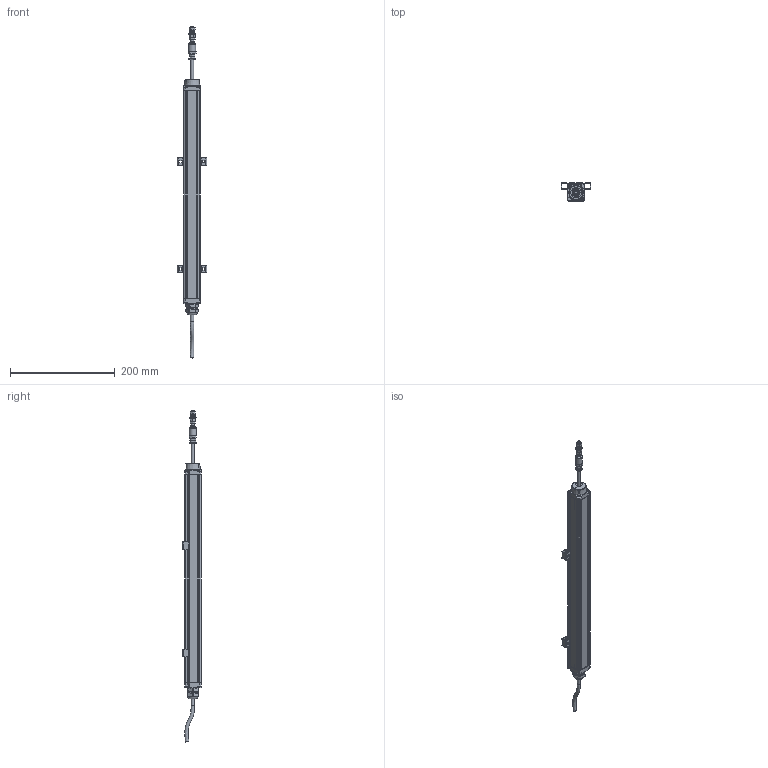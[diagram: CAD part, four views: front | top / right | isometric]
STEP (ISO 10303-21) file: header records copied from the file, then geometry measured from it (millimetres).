
FILE_DESCRIPTION(/* description */ (''),/* implementation_level */ '2;1');
FILE_NAME(/* name */ 'KTC1-350MM.stp',/* time_stamp */ '2020-07-23T15:25:37+08:00',/* author */ (''),/* organization */ (''),/* preprocessor_version */ 'ST-DEVELOPER v16',/* originating_system */ 'SIEMENS PLM Software NX 10.0',/* authorisation */ '');
FILE_SCHEMA (('CONFIG_CONTROL_DESIGN'));
Products named in the file (1): KTC1-350MM
Bounding box: 56 x 35.07 x 634.57 mm (x, y, z)
Volume: 162390.3 mm3; surface area: 170823.6 mm2
Topology: 27 solids, 27 shells, 1201 faces, 3284 edges, 2147 vertices
Faces by surface type: plane 618, cylinder 432, torus 79, bspline 28, cone 24, sphere 20
Full cylindrical faces by diameter (mm): 2.5 x7, 2.525 x2, 3 x4, 3.2 x1, 3.5 x4, 3.7 x2, 4 x2, 4.5 x2, 4.9 x24, 5.9 x4, 6 x3, 6.3 x1, 7 x1, 7.986 x1, 8 x2, 9.986 x1, 10 x2, 10.5 x1, 11 x1, 11.4 x1, 12 x1, 13 x2, 13.5 x2, 14.973 x1, 15 x9, 15.938 x1, 16.471 x1, 18.75 x1, 19.688 x1, 20.625 x1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
Entity records: 59675 total; most frequent: CARTESIAN_POINT 30720, ORIENTED_EDGE 6094, DIRECTION 5731, EDGE_CURVE 3047, VERTEX_POINT 2047, AXIS2_PLACEMENT_3D 1967, LINE 1797, VECTOR 1797
